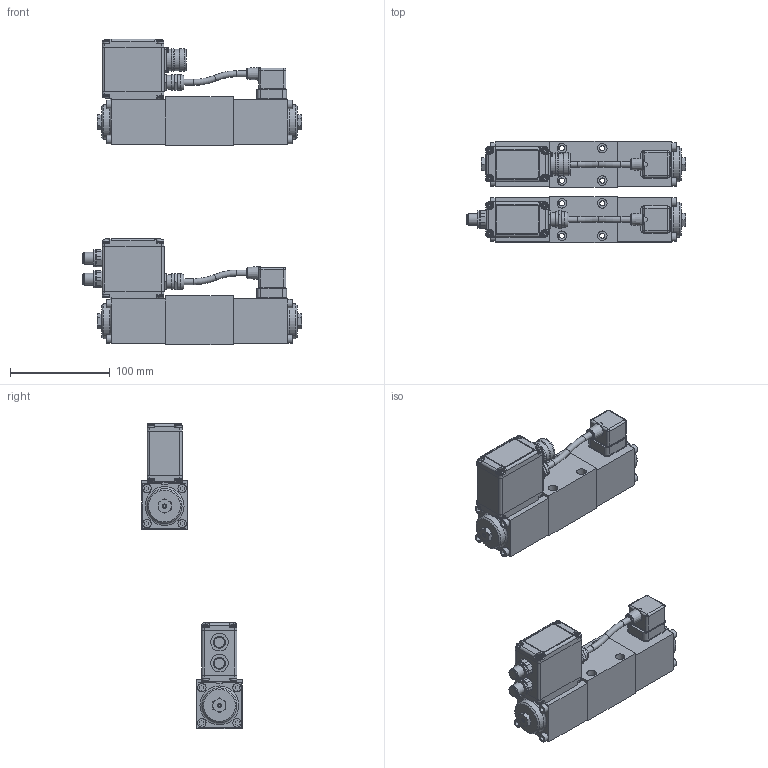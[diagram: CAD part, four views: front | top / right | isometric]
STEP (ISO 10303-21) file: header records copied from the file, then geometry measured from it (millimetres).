
FILE_DESCRIPTION(('Bauteilbeschreibung','HiCAD-Model','HiCAD-STEP-TRANSLATION','Bauteilbeschreibung'),'2;1');
FILE_NAME('D:/WDVFA06_ACB.STP','2006-08-21T16:37:31+00:00',('Konstrukteur'),('Konstrukteur Firma GmbH'),'HiCAD3 V1210 STEP 1.6.2005','HiCAD3 V1210','confidential');
FILE_SCHEMA(('AUTOMOTIVE_DESIGN { 1 2 10303 214 0 1 1 1 }'));
Products named in the file (49): WDVFA06_ACB; WDVFA06_ACB_C1; FFF4EE6E; AE93A4EA; CA13AC95; CA13AC950; HB6; IN6KTM5; IN6KTM50; IN6KTM51; IN6KTM52; IN6KTM53; ANALOG; EE4EBBA9; EE4EBBA90; STECKER; STECKER0; DICHTUNG; STECKDOSE; HB60; IN6KTM54; IN6KTM55; IN6KTM56; IN6KTM57; IN6KTM58; WDVFA06_ACB_A2; A4941721; AE93A4EA0; EE4EBBA91; EE4EBBA92; STECKER1; STECKER2; DICHTUNG0; STECKDOSE0; HB61; IN6KTM59; IN6KTM510; IN6KTM511; IN6KTM512; IN6KTM513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
Assembly tree (48 placements, depth 6):
  WDVFA06_ACB
    WDVFA06_ACB_C1
      FFF4EE6E
        AE93A4EA
        CA13AC95
        CA13AC950
          HB6
          IN6KTM5
            IN6KTM50
            IN6KTM51
            IN6KTM52
            IN6KTM53
          ANALOG
        EE4EBBA9
        EE4EBBA90
          STECKER
          STECKER0
            DICHTUNG
          STECKDOSE
          HB60
          IN6KTM54
            IN6KTM55
            IN6KTM56
            IN6KTM57
            IN6KTM58
    WDVFA06_ACB_A2
      A4941721
        AE93A4EA0
        EE4EBBA91
        EE4EBBA92
          STECKER1
          STECKER2
            DICHTUNG0
          STECKDOSE0
          HB61
          IN6KTM59
            IN6KTM510
            IN6KTM511
            IN6KTM512
            IN6KTM513
        B43439A9
        B43439A90
          HB62
          IN6KTM514
            IN6KTM515
            IN6KTM516
            IN6KTM517
            IN6KTM518
          ANALOG0
Bounding box: 220.2 x 101 x 306.6 mm (x, y, z)
Volume: 1087923.4 mm3; surface area: 206057.5 mm2
Topology: 40 solids, 41 shells, 1484 faces, 3659 edges, 2334 vertices
Faces by surface type: plane 893, cylinder 337, cone 162, torus 60, sphere 16, bspline 16
Full cylindrical faces by diameter (mm): 2.5 x4, 3 x12, 4.2 x4, 4.5 x4, 5 x16, 5.2 x8, 5.5 x16, 6 x4, 6.8 x4, 6.9 x16, 8 x8, 8.5 x16, 9.5 x8, 10.3 x2, 12 x2, 12.5 x8, 14 x2, 15 x4, 15.5 x4, 17 x2, 17.1 x1, 19 x1, 21.5 x3, 22.9 x1, 23 x1, 35 x4
Entity records: 75714 total; most frequent: CARTESIAN_POINT 12134, DIRECTION 7052, ORIENTED_EDGE 6652, COLOUR_RGB 4816, PRESENTATION_STYLE_ASSIGNMENT 4816, OVER_RIDING_STYLED_ITEM 4782, EDGE_CURVE 3326, CURVE_STYLE 3298
